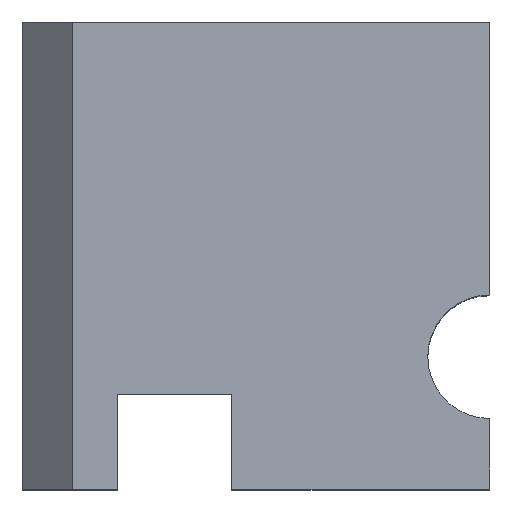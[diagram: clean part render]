
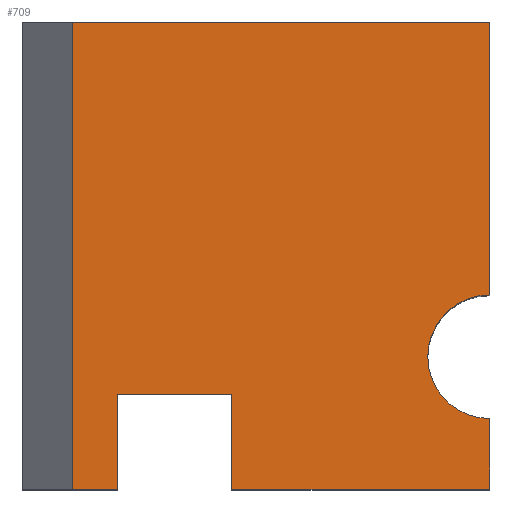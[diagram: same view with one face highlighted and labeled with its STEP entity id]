
A CAD part, top view. The second image highlights one B-rep face of the part: STEP entity #709.
In plain terms, the highlighted planar face has unit normal (0, 0, 1).
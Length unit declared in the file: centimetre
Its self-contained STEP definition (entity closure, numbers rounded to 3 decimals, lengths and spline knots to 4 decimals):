
#6 = ORIENTED_EDGE ( 'NONE', *, *, #842, .T. ) ;
#10 = DIRECTION ( 'NONE',  ( 0., 0., 1. ) ) ;
#20 = CARTESIAN_POINT ( 'NONE',  ( 448.0648, 0., 1000. ) ) ;
#27 = VERTEX_POINT ( 'NONE', #783 ) ;
#36 = CARTESIAN_POINT ( 'NONE',  ( 448.0648, 203.4301, 1000. ) ) ;
#69 = EDGE_CURVE ( 'NONE', #82, #1309, #422, .T. ) ;
#74 = ORIENTED_EDGE ( 'NONE', *, *, #1508, .T. ) ;
#82 = VERTEX_POINT ( 'NONE', #1368 ) ;
#102 = ORIENTED_EDGE ( 'NONE', *, *, #992, .T. ) ;
#121 = VECTOR ( 'NONE', #876, 100. ) ;
#128 = FACE_OUTER_BOUND ( 'NONE', #711, .T. ) ;
#169 = DIRECTION ( 'NONE',  ( 0., 1., 0. ) ) ;
#183 = CARTESIAN_POINT ( 'NONE',  ( 107.3728, 1000., 1000. ) ) ;
#192 = CARTESIAN_POINT ( 'NONE',  ( 0., 0., 1000. ) ) ;
#212 = DIRECTION ( 'NONE',  ( 1., 0., 0. ) ) ;
#225 = AXIS2_PLACEMENT_3D ( 'NONE', #1536, #451, #212 ) ;
#244 = VECTOR ( 'NONE', #1503, 100. ) ;
#258 = PLANE ( 'NONE',  #998 ) ;
#291 = DIRECTION ( 'NONE',  ( 1., 0., 0. ) ) ;
#297 = LINE ( 'NONE', #1275, #1560 ) ;
#318 = ORIENTED_EDGE ( 'NONE', *, *, #794, .T. ) ;
#366 = VERTEX_POINT ( 'NONE', #36 ) ;
#401 = VERTEX_POINT ( 'NONE', #1225 ) ;
#404 = VECTOR ( 'NONE', #741, 100. ) ;
#422 = LINE ( 'NONE', #518, #244 ) ;
#449 = LINE ( 'NONE', #1417, #826 ) ;
#451 = DIRECTION ( 'NONE',  ( 0., 0., 1. ) ) ;
#454 = CIRCLE ( 'NONE', #225, 132.3146 ) ;
#455 = VERTEX_POINT ( 'NONE', #1269 ) ;
#504 = DIRECTION ( 'NONE',  ( 1., 0., 0. ) ) ;
#518 = CARTESIAN_POINT ( 'NONE',  ( 0., 0., 1000. ) ) ;
#525 = VERTEX_POINT ( 'NONE', #183 ) ;
#541 = EDGE_CURVE ( 'NONE', #635, #366, #297, .T. ) ;
#628 = CARTESIAN_POINT ( 'NONE',  ( 0., 0., 1000. ) ) ;
#635 = VERTEX_POINT ( 'NONE', #1307 ) ;
#681 = CARTESIAN_POINT ( 'NONE',  ( 1000., 151.1828, 1000. ) ) ;
#689 = DIRECTION ( 'NONE',  ( 0., -1., 0. ) ) ;
#699 = VERTEX_POINT ( 'NONE', #20 ) ;
#709 = ADVANCED_FACE ( 'NONE', ( #128 ), #258, .T. ) ;
#711 = EDGE_LOOP ( 'NONE', ( #1542, #6, #1531, #102, #1444, #74, #988, #855, #318, #953 ) ) ;
#741 = DIRECTION ( 'NONE',  ( 0., 1., 0. ) ) ;
#759 = LINE ( 'NONE', #1351, #404 ) ;
#783 = CARTESIAN_POINT ( 'NONE',  ( 1000., 415.8119, 1000. ) ) ;
#794 = EDGE_CURVE ( 'NONE', #699, #455, #1283, .T. ) ;
#799 = VECTOR ( 'NONE', #291, 100. ) ;
#826 = VECTOR ( 'NONE', #931, 100. ) ;
#842 = EDGE_CURVE ( 'NONE', #27, #401, #1040, .T. ) ;
#855 = ORIENTED_EDGE ( 'NONE', *, *, #1434, .T. ) ;
#862 = CARTESIAN_POINT ( 'NONE',  ( 203.3761, 0., 1000. ) ) ;
#876 = DIRECTION ( 'NONE',  ( 0., 1., 0. ) ) ;
#908 = VECTOR ( 'NONE', #689, 100. ) ;
#922 = CARTESIAN_POINT ( 'NONE',  ( 1000., 1000., 1000. ) ) ;
#931 = DIRECTION ( 'NONE',  ( 0., -1., 0. ) ) ;
#933 = LINE ( 'NONE', #1295, #908 ) ;
#953 = ORIENTED_EDGE ( 'NONE', *, *, #1571, .T. ) ;
#988 = ORIENTED_EDGE ( 'NONE', *, *, #541, .T. ) ;
#992 = EDGE_CURVE ( 'NONE', #525, #82, #449, .T. ) ;
#998 = AXIS2_PLACEMENT_3D ( 'NONE', #628, #10, #504 ) ;
#1029 = DIRECTION ( 'NONE',  ( 1., 0., 0. ) ) ;
#1040 = LINE ( 'NONE', #922, #1314 ) ;
#1041 = LINE ( 'NONE', #1529, #1109 ) ;
#1109 = VECTOR ( 'NONE', #1271, 100. ) ;
#1202 = VERTEX_POINT ( 'NONE', #681 ) ;
#1225 = CARTESIAN_POINT ( 'NONE',  ( 1000., 1000., 1000. ) ) ;
#1269 = CARTESIAN_POINT ( 'NONE',  ( 1000., 0., 1000. ) ) ;
#1271 = DIRECTION ( 'NONE',  ( -1., 0., 0. ) ) ;
#1275 = CARTESIAN_POINT ( 'NONE',  ( 203.3761, 203.4301, 1000. ) ) ;
#1283 = LINE ( 'NONE', #192, #799 ) ;
#1285 = EDGE_CURVE ( 'NONE', #401, #525, #1041, .T. ) ;
#1295 = CARTESIAN_POINT ( 'NONE',  ( 448.0648, 0., 1000. ) ) ;
#1307 = CARTESIAN_POINT ( 'NONE',  ( 203.3761, 203.4301, 1000. ) ) ;
#1309 = VERTEX_POINT ( 'NONE', #1403 ) ;
#1314 = VECTOR ( 'NONE', #169, 100. ) ;
#1351 = CARTESIAN_POINT ( 'NONE',  ( 1000., 1000., 1000. ) ) ;
#1368 = CARTESIAN_POINT ( 'NONE',  ( 107.3728, 0., 1000. ) ) ;
#1403 = CARTESIAN_POINT ( 'NONE',  ( 203.3761, 0., 1000. ) ) ;
#1417 = CARTESIAN_POINT ( 'NONE',  ( 107.3728, 0., 1000. ) ) ;
#1434 = EDGE_CURVE ( 'NONE', #366, #699, #933, .T. ) ;
#1444 = ORIENTED_EDGE ( 'NONE', *, *, #69, .T. ) ;
#1457 = EDGE_CURVE ( 'NONE', #27, #1202, #454, .T. ) ;
#1483 = LINE ( 'NONE', #862, #121 ) ;
#1503 = DIRECTION ( 'NONE',  ( 1., 0., 0. ) ) ;
#1508 = EDGE_CURVE ( 'NONE', #1309, #635, #1483, .T. ) ;
#1529 = CARTESIAN_POINT ( 'NONE',  ( 0., 1000., 1000. ) ) ;
#1531 = ORIENTED_EDGE ( 'NONE', *, *, #1285, .T. ) ;
#1536 = CARTESIAN_POINT ( 'NONE',  ( 1000., 283.4974, 1000. ) ) ;
#1542 = ORIENTED_EDGE ( 'NONE', *, *, #1457, .F. ) ;
#1560 = VECTOR ( 'NONE', #1029, 100. ) ;
#1571 = EDGE_CURVE ( 'NONE', #455, #1202, #759, .T. ) ;
